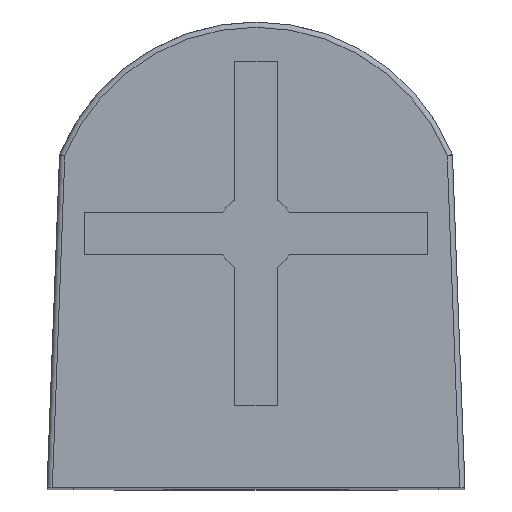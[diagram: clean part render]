
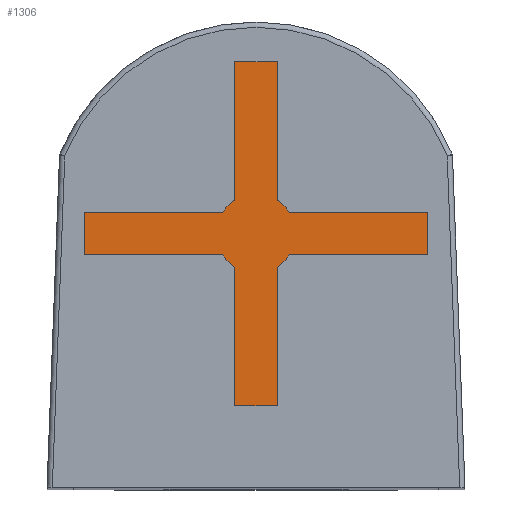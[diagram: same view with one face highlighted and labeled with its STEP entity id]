
A CAD part, top view. The second image highlights one B-rep face of the part: STEP entity #1306.
In plain terms, the highlighted planar face has unit normal (0, 0, 1).
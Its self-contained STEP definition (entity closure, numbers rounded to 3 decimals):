
#33 = LINE ( 'NONE', #1589, #775 ) ;
#39 = DIRECTION ( 'NONE',  ( -1., 0., 0. ) ) ;
#42 = CARTESIAN_POINT ( 'NONE',  ( 3.25, 5.2, 12.95 ) ) ;
#73 = ORIENTED_EDGE ( 'NONE', *, *, #1698, .T. ) ;
#74 = LINE ( 'NONE', #914, #1516 ) ;
#108 = EDGE_CURVE ( 'NONE', #2078, #2402, #1765, .T. ) ;
#117 = CARTESIAN_POINT ( 'NONE',  ( 0.4, 4.166, 12.95 ) ) ;
#146 = CARTESIAN_POINT ( 'NONE',  ( 0.4, 5.434, 12.95 ) ) ;
#194 = VECTOR ( 'NONE', #1581, 1000. ) ;
#199 = EDGE_CURVE ( 'NONE', #2462, #247, #33, .T. ) ;
#201 = VECTOR ( 'NONE', #433, 1000. ) ;
#247 = VERTEX_POINT ( 'NONE', #1297 ) ;
#250 = VERTEX_POINT ( 'NONE', #117 ) ;
#273 = VERTEX_POINT ( 'NONE', #146 ) ;
#290 = CARTESIAN_POINT ( 'NONE',  ( 3.25, 5.2, 12.95 ) ) ;
#300 = ORIENTED_EDGE ( 'NONE', *, *, #327, .T. ) ;
#327 = EDGE_CURVE ( 'NONE', #273, #2004, #1490, .T. ) ;
#368 = AXIS2_PLACEMENT_3D ( 'NONE', #958, #573, #1325 ) ;
#378 = AXIS2_PLACEMENT_3D ( 'NONE', #2163, #1946, #789 ) ;
#433 = DIRECTION ( 'NONE',  ( 0., -1., 0. ) ) ;
#437 = CIRCLE ( 'NONE', #1509, 0.75 ) ;
#460 = ORIENTED_EDGE ( 'NONE', *, *, #2548, .T. ) ;
#525 = CARTESIAN_POINT ( 'NONE',  ( -0.4, 4.166, 12.95 ) ) ;
#537 = CARTESIAN_POINT ( 'NONE',  ( -3.25, 4.4, 12.95 ) ) ;
#545 = LINE ( 'NONE', #2131, #2194 ) ;
#573 = DIRECTION ( 'NONE',  ( 0., 0., 1. ) ) ;
#581 = DIRECTION ( 'NONE',  ( 1., 0., 0. ) ) ;
#607 = ORIENTED_EDGE ( 'NONE', *, *, #992, .T. ) ;
#622 = CARTESIAN_POINT ( 'NONE',  ( -0.4, 8.05, 12.95 ) ) ;
#709 = CARTESIAN_POINT ( 'NONE',  ( -0.4, 1.55, 12.95 ) ) ;
#718 = ORIENTED_EDGE ( 'NONE', *, *, #1621, .T. ) ;
#757 = CARTESIAN_POINT ( 'NONE',  ( -0.4, 8.05, 12.95 ) ) ;
#775 = VECTOR ( 'NONE', #1789, 1000. ) ;
#789 = DIRECTION ( 'NONE',  ( 1., 0., 0. ) ) ;
#806 = CARTESIAN_POINT ( 'NONE',  ( -0.4, 8.05, 12.95 ) ) ;
#807 = LINE ( 'NONE', #2409, #1861 ) ;
#815 = CARTESIAN_POINT ( 'NONE',  ( 0.4, 1.55, 12.95 ) ) ;
#872 = LINE ( 'NONE', #1880, #2071 ) ;
#890 = DIRECTION ( 'NONE',  ( 0., 1., 0. ) ) ;
#914 = CARTESIAN_POINT ( 'NONE',  ( -0.4, 1.55, 12.95 ) ) ;
#957 = ORIENTED_EDGE ( 'NONE', *, *, #1253, .T. ) ;
#958 = CARTESIAN_POINT ( 'NONE',  ( 0., 4.8, 12.95 ) ) ;
#965 = CARTESIAN_POINT ( 'NONE',  ( -0.634, 5.2, 12.95 ) ) ;
#992 = EDGE_CURVE ( 'NONE', #1758, #2366, #74, .T. ) ;
#997 = DIRECTION ( 'NONE',  ( 0., -1., 0. ) ) ;
#1016 = CIRCLE ( 'NONE', #1055, 0.75 ) ;
#1055 = AXIS2_PLACEMENT_3D ( 'NONE', #1796, #1237, #1605 ) ;
#1061 = CARTESIAN_POINT ( 'NONE',  ( -0.634, 4.4, 12.95 ) ) ;
#1116 = CARTESIAN_POINT ( 'NONE',  ( -3.25, 5.2, 12.95 ) ) ;
#1131 = EDGE_CURVE ( 'NONE', #2240, #2196, #545, .T. ) ;
#1184 = PLANE ( 'NONE',  #2159 ) ;
#1199 = CARTESIAN_POINT ( 'NONE',  ( 0., 4.8, 12.95 ) ) ;
#1200 = VECTOR ( 'NONE', #1856, 1000. ) ;
#1219 = CARTESIAN_POINT ( 'NONE',  ( -3.25, 5.2, 12.95 ) ) ;
#1237 = DIRECTION ( 'NONE',  ( 0., 0., 1. ) ) ;
#1253 = EDGE_CURVE ( 'NONE', #2196, #2485, #1554, .T. ) ;
#1297 = CARTESIAN_POINT ( 'NONE',  ( 3.25, 4.4, 12.95 ) ) ;
#1301 = DIRECTION ( 'NONE',  ( 0., -1., 0. ) ) ;
#1306 = ADVANCED_FACE ( 'NONE', ( #1365 ), #1184, .T. ) ;
#1308 = ORIENTED_EDGE ( 'NONE', *, *, #1383, .T. ) ;
#1325 = DIRECTION ( 'NONE',  ( 1., 0., 0. ) ) ;
#1340 = DIRECTION ( 'NONE',  ( 0., 0., 1. ) ) ;
#1345 = ORIENTED_EDGE ( 'NONE', *, *, #2031, .T. ) ;
#1365 = FACE_OUTER_BOUND ( 'NONE', #1477, .T. ) ;
#1380 = ORIENTED_EDGE ( 'NONE', *, *, #2413, .T. ) ;
#1383 = EDGE_CURVE ( 'NONE', #1867, #273, #1016, .T. ) ;
#1415 = LINE ( 'NONE', #1962, #194 ) ;
#1445 = ORIENTED_EDGE ( 'NONE', *, *, #1993, .T. ) ;
#1452 = ORIENTED_EDGE ( 'NONE', *, *, #2494, .T. ) ;
#1457 = CIRCLE ( 'NONE', #368, 0.75 ) ;
#1477 = EDGE_LOOP ( 'NONE', ( #1814, #1345, #460, #73, #2086, #957, #1445, #607, #718, #2021, #2039, #1452, #2415, #1308, #300, #1380 ) ) ;
#1490 = LINE ( 'NONE', #2267, #2545 ) ;
#1509 = AXIS2_PLACEMENT_3D ( 'NONE', #1199, #1340, #2535 ) ;
#1516 = VECTOR ( 'NONE', #2200, 1000. ) ;
#1554 = CIRCLE ( 'NONE', #378, 0.75 ) ;
#1568 = CARTESIAN_POINT ( 'NONE',  ( 0.634, 4.4, 12.95 ) ) ;
#1576 = VERTEX_POINT ( 'NONE', #1116 ) ;
#1581 = DIRECTION ( 'NONE',  ( 0., 1., 0. ) ) ;
#1589 = CARTESIAN_POINT ( 'NONE',  ( 0.634, 4.4, 12.95 ) ) ;
#1605 = DIRECTION ( 'NONE',  ( 1., 0., 0. ) ) ;
#1621 = EDGE_CURVE ( 'NONE', #2366, #250, #1415, .T. ) ;
#1622 = VERTEX_POINT ( 'NONE', #42 ) ;
#1671 = CARTESIAN_POINT ( 'NONE',  ( 0.634, 5.2, 12.95 ) ) ;
#1690 = VECTOR ( 'NONE', #2035, 1000. ) ;
#1698 = EDGE_CURVE ( 'NONE', #1576, #2240, #807, .T. ) ;
#1748 = CARTESIAN_POINT ( 'NONE',  ( -0.4, 5.434, 12.95 ) ) ;
#1758 = VERTEX_POINT ( 'NONE', #709 ) ;
#1765 = LINE ( 'NONE', #806, #201 ) ;
#1771 = DIRECTION ( 'NONE',  ( 1., 0., 0. ) ) ;
#1789 = DIRECTION ( 'NONE',  ( 1., 0., 0. ) ) ;
#1790 = EDGE_CURVE ( 'NONE', #1622, #1867, #872, .T. ) ;
#1796 = CARTESIAN_POINT ( 'NONE',  ( 0., 4.8, 12.95 ) ) ;
#1810 = LINE ( 'NONE', #1219, #1690 ) ;
#1814 = ORIENTED_EDGE ( 'NONE', *, *, #108, .T. ) ;
#1827 = LINE ( 'NONE', #290, #1200 ) ;
#1840 = CARTESIAN_POINT ( 'NONE',  ( 0.4, 8.05, 12.95 ) ) ;
#1856 = DIRECTION ( 'NONE',  ( 0., 1., 0. ) ) ;
#1861 = VECTOR ( 'NONE', #997, 1000. ) ;
#1867 = VERTEX_POINT ( 'NONE', #1671 ) ;
#1880 = CARTESIAN_POINT ( 'NONE',  ( 0.634, 5.2, 12.95 ) ) ;
#1945 = VECTOR ( 'NONE', #1301, 1000. ) ;
#1946 = DIRECTION ( 'NONE',  ( 0., 0., 1. ) ) ;
#1962 = CARTESIAN_POINT ( 'NONE',  ( 0.4, 4.166, 12.95 ) ) ;
#1978 = LINE ( 'NONE', #622, #2060 ) ;
#1993 = EDGE_CURVE ( 'NONE', #2485, #1758, #2273, .T. ) ;
#2004 = VERTEX_POINT ( 'NONE', #1840 ) ;
#2021 = ORIENTED_EDGE ( 'NONE', *, *, #2278, .T. ) ;
#2031 = EDGE_CURVE ( 'NONE', #2402, #2328, #437, .T. ) ;
#2035 = DIRECTION ( 'NONE',  ( -1., 0., 0. ) ) ;
#2039 = ORIENTED_EDGE ( 'NONE', *, *, #199, .T. ) ;
#2060 = VECTOR ( 'NONE', #39, 1000. ) ;
#2071 = VECTOR ( 'NONE', #2249, 1000. ) ;
#2078 = VERTEX_POINT ( 'NONE', #757 ) ;
#2086 = ORIENTED_EDGE ( 'NONE', *, *, #1131, .T. ) ;
#2131 = CARTESIAN_POINT ( 'NONE',  ( -3.25, 4.4, 12.95 ) ) ;
#2139 = CARTESIAN_POINT ( 'NONE',  ( 0., 4.8, 12.95 ) ) ;
#2159 = AXIS2_PLACEMENT_3D ( 'NONE', #2139, #2547, #1771 ) ;
#2163 = CARTESIAN_POINT ( 'NONE',  ( 0., 4.8, 12.95 ) ) ;
#2194 = VECTOR ( 'NONE', #581, 1000. ) ;
#2196 = VERTEX_POINT ( 'NONE', #1061 ) ;
#2200 = DIRECTION ( 'NONE',  ( 1., 0., 0. ) ) ;
#2240 = VERTEX_POINT ( 'NONE', #537 ) ;
#2249 = DIRECTION ( 'NONE',  ( -1., 0., 0. ) ) ;
#2267 = CARTESIAN_POINT ( 'NONE',  ( 0.4, 8.05, 12.95 ) ) ;
#2273 = LINE ( 'NONE', #525, #1945 ) ;
#2278 = EDGE_CURVE ( 'NONE', #250, #2462, #1457, .T. ) ;
#2328 = VERTEX_POINT ( 'NONE', #965 ) ;
#2366 = VERTEX_POINT ( 'NONE', #815 ) ;
#2392 = CARTESIAN_POINT ( 'NONE',  ( -0.4, 4.166, 12.95 ) ) ;
#2402 = VERTEX_POINT ( 'NONE', #1748 ) ;
#2409 = CARTESIAN_POINT ( 'NONE',  ( -3.25, 5.2, 12.95 ) ) ;
#2413 = EDGE_CURVE ( 'NONE', #2004, #2078, #1978, .T. ) ;
#2415 = ORIENTED_EDGE ( 'NONE', *, *, #1790, .T. ) ;
#2462 = VERTEX_POINT ( 'NONE', #1568 ) ;
#2485 = VERTEX_POINT ( 'NONE', #2392 ) ;
#2494 = EDGE_CURVE ( 'NONE', #247, #1622, #1827, .T. ) ;
#2535 = DIRECTION ( 'NONE',  ( 1., 0., 0. ) ) ;
#2545 = VECTOR ( 'NONE', #890, 1000. ) ;
#2547 = DIRECTION ( 'NONE',  ( 0., 0., 1. ) ) ;
#2548 = EDGE_CURVE ( 'NONE', #2328, #1576, #1810, .T. ) ;
